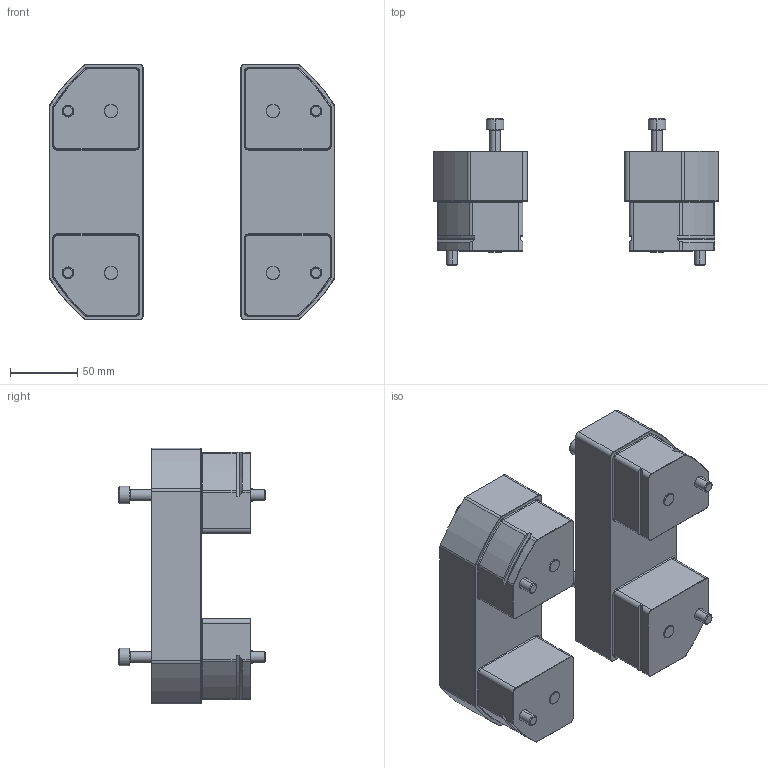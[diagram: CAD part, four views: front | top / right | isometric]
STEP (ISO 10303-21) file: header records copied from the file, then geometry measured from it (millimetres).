
FILE_DESCRIPTION (( 'STEP AP203' ), '1' );
FILE_NAME ('5012766 - VERSACART UR10e PEDESTAL MOUNT.STEP', '2024-12-11T17:53:32', ( '' ), ( '' ), 'SwSTEP 2.0', 'SolidWorks 2019', '' );
FILE_SCHEMA (( 'CONFIG_CONTROL_DESIGN' ));
Length unit declared in the file: inch
Products named in the file (6): M8x1.25 SHCS_SHCS M8-1.25 x 30; M8x1.25 SHCS_SHCS M8-1.25 x 75; 5012087_Default Configuration; 5012766 - VERSACART UR10e PEDESTAL MOUNT; 5012170; 5012766_Default Configuration
Assembly tree (11 placements, depth 3):
  5012087_Default Configuration
  5012766 - VERSACART UR10e PEDESTAL MOUNT
    5012766_Default Configuration
      5012170  x2
      M8x1.25 SHCS_SHCS M8-1.25 x 75  x4
      M8x1.25 SHCS_SHCS M8-1.25 x 30  x4
Bounding box: 212.16 x 108.57 x 190 mm (x, y, z)
Volume: 1429291.6 mm3; surface area: 150457.7 mm2
Topology: 10 solids, 10 shells, 560 faces, 1280 edges, 740 vertices
Faces by surface type: plane 204, cone 156, cylinder 156, torus 44
Entity records: 7133 total; most frequent: DIRECTION 1192, CARTESIAN_POINT 1145, ORIENTED_EDGE 1016, EDGE_CURVE 508, AXIS2_PLACEMENT_3D 463, VERTEX_POINT 304, VECTOR 266, LINE 266
